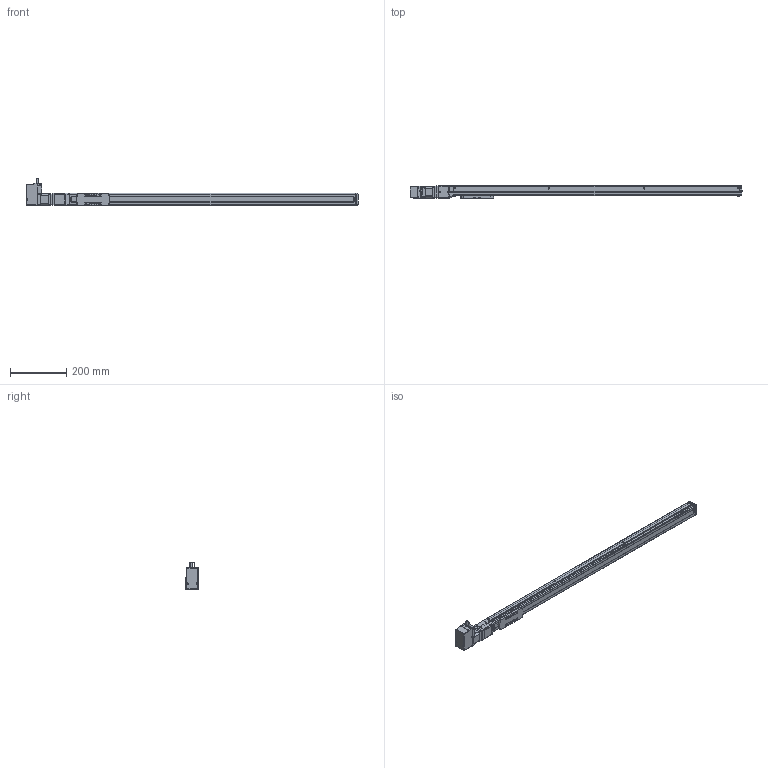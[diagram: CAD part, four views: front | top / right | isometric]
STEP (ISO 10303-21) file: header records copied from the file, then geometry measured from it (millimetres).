
FILE_DESCRIPTION(('FreeCAD Model'),'2;1');
FILE_NAME('Open CASCADE Shape Model','2023-08-01T18:36:58',('Author'),( ''),'Open CASCADE STEP processor 7.5','FreeCAD','Unknown');
FILE_SCHEMA(('AUTOMOTIVE_DESIGN { 1 0 10303 214 1 1 1 1 }'));
Length unit declared in the file: millimetre
Products named in the file (20): RCB0411; Shapes; Shapes001; Shapes002; Shapes003; Shapes004; Shapes005; Shapes006; Shapes007; Shapes008; Shapes009; Shapes010; Shapes011; Shapes012; Shapes013; KSF4-10-0850-0-AR(0); KSF4---(Cover); KSF4-AR---(Motor bracket); KSF4-10-0850---(slider); KSF4-10-0850-0-AR-(08500ARNo0)---(body)
Assembly tree (19 placements, depth 3):
  RCB0411
    Shapes
    Shapes001
    Shapes002
    Shapes003
    Shapes004
    Shapes005
    Shapes006
    Shapes007
    Shapes008
    Shapes009
    Shapes010
    Shapes011
    Shapes012
    Shapes013
    KSF4-10-0850-0-AR(0)
      KSF4---(Cover)
      KSF4-AR---(Motor bracket)
      KSF4-10-0850---(slider)
      KSF4-10-0850-0-AR-(08500ARNo0)---(body)
Bounding box: 1182 x 46 x 98.19 mm (x, y, z)
Volume: 1857736.4 mm3; surface area: 343077.6 mm2
Topology: 18 solids, 18 shells, 1309 faces, 3366 edges, 2196 vertices
Faces by surface type: plane 723, cylinder 436, cone 68, torus 53, bspline 19, revolution 6, sphere 4
Full cylindrical faces by diameter (mm): 2.113 x8, 2.459 x3, 3 x6, 3.242 x4, 3.4 x20, 4 x3, 4.5 x2, 5.5 x8, 6 x1, 6.5 x22, 8 x1, 12 x1, 22 x1, 28 x1, 30 x2
Entity records: 95226 total; most frequent: CARTESIAN_POINT 27234, DIRECTION 12781, LINE 7575, VECTOR 7575, ORIENTED_EDGE 6696, PCURVE 6696, DEFINITIONAL_REPRESENTATION 6696, EDGE_CURVE 3348
